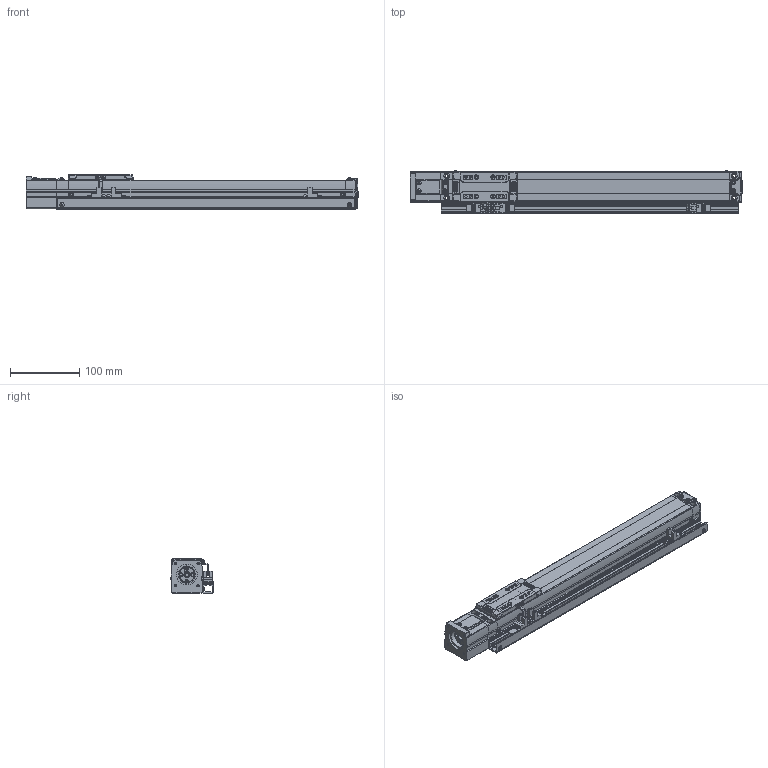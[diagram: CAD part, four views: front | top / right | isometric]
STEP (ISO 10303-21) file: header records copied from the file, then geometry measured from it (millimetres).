
FILE_DESCRIPTION(('STEP AP214'),'1');
FILE_NAME('Z:/Web/3D/SAN45/STP/SAN45ㅁㅁ-300S+3SR.stp','2012-06-15T05:40:09',(' '),(' '),'Spatial InterOp 3D',' ',' ');
FILE_SCHEMA(('automotive_design'));
Length unit declared in the file: metre
Products named in the file (86): SAN45__-300; BODY-SAN45; REAR-SAN45; RRCV-SAN45; BHCS M3 x 6L; BHCS M3 X 6L; FRONT-SAN45; SHAFT; RN8 x 0.75; SSFX-SAN45; SLIDE-SAN45; SLCV-IM45; FHCS M3 x 6L; ____93; S; MTHZ-SAN45; SDWB 22C-6-8; SDWB22C(2); SDWB22C(2)_1; SDWB22C(3); SDWB22C(3)_1; SDWB22C(3)_2; SDWB22C(3)_3; SDWB22C(3)_4; SDWB22C(3)_5; SDWB22C(3)_6; SDWB22C(3)_7; SDWB22C(3)_8; SDWB22C(3)_9; SDWB22C(3)_10; SDWB22C(3)_11; SDWB22C(3)_12; SDWB22C(3)_13; SDWB22C(3)_14; SDWB22C(3)_15; SDWB22C(4); SDWB22C(5); SDWB22C(5)_1; SDWB22C(5)_2; SDWB22C(5)_3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
Assembly tree (85 placements, depth 4):
  ____93
    SAN45__-300
      BODY-SAN45
      REAR-SAN45
        REAR-SAN45
        RRCV-SAN45
        BHCS M3 x 6L
        BHCS M3 X 6L
        BHCS M3 x 6L
        BHCS M3 x 6L
        BHCS M3 x 6L
        BHCS M3 x 6L
      FRONT-SAN45
        FRONT-SAN45
        SHAFT
        RN8 x 0.75
        SSFX-SAN45
        BHCS M3 x 6L
        BHCS M3 x 6L
        BHCS M3 x 6L
        BHCS M3 x 6L
      SLIDE-SAN45
        SLIDE-SAN45
        SLCV-IM45
        FHCS M3 x 6L
        FHCS M3 x 6L
        FHCS M3 x 6L
        FHCS M3 x 6L
    S
      MTHZ-SAN45
      SDWB 22C-6-8
        SDWB22C(2)
        SDWB22C(2)_1
        SDWB22C(3)
        SDWB22C(3)_1
        SDWB22C(3)_2
        SDWB22C(3)_3
        SDWB22C(3)_4
        SDWB22C(3)_5
        SDWB22C(3)_6
        SDWB22C(3)_7
        SDWB22C(3)_8
        SDWB22C(3)_9
        SDWB22C(3)_10
        SDWB22C(3)_11
        SDWB22C(3)_12
        SDWB22C(3)_13
        SDWB22C(3)_14
        SDWB22C(3)_15
        SDWB22C(4)
        SDWB22C(5)
        SDWB22C(5)_1
        SDWB22C(5)_2
        SDWB22C(5)_3
        SDWB22C(5)_4
        SDWB22C(5)_5
        SDWB22C(5)_6
        SDWB22C(5)_7
        SDWA22C(1)
        SDWA22C(1)
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Bounding box: 480.15 x 62.06 x 50 mm (x, y, z)
Volume: 921747.5 mm3; surface area: 209512.1 mm2
Topology: 74 solids, 74 shells, 2380 faces, 6058 edges, 3908 vertices
Faces by surface type: plane 1432, cylinder 660, cone 158, sphere 54, bspline 46, torus 27, extrusion 3
Full cylindrical faces by diameter (mm): 0.376 x2, 0.47 x1, 1.137 x2, 1.421 x1, 1.665 x4, 2.081 x2, 2.2 x4, 2.5 x45, 2.6 x14, 2.7 x2, 3 x10, 3.193 x4, 3.3 x8, 3.4 x4, 3.5 x16, 3.991 x2, 4.2 x9, 4.5 x28, 4.9 x2, 5 x13, 6 x9, 6.5 x2, 7 x1, 8 x9, 9 x1, 10.7 x2, 13 x1, 15 x1, 19 x1, 22.2 x3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
Entity records: 94369 total; most frequent: CARTESIAN_POINT 17058, DIRECTION 11940, ORIENTED_EDGE 11048, EDGE_CURVE 5524, AXIS2_PLACEMENT_3D 4162, VERTEX_POINT 3778, VECTOR 3616, LINE 3613
